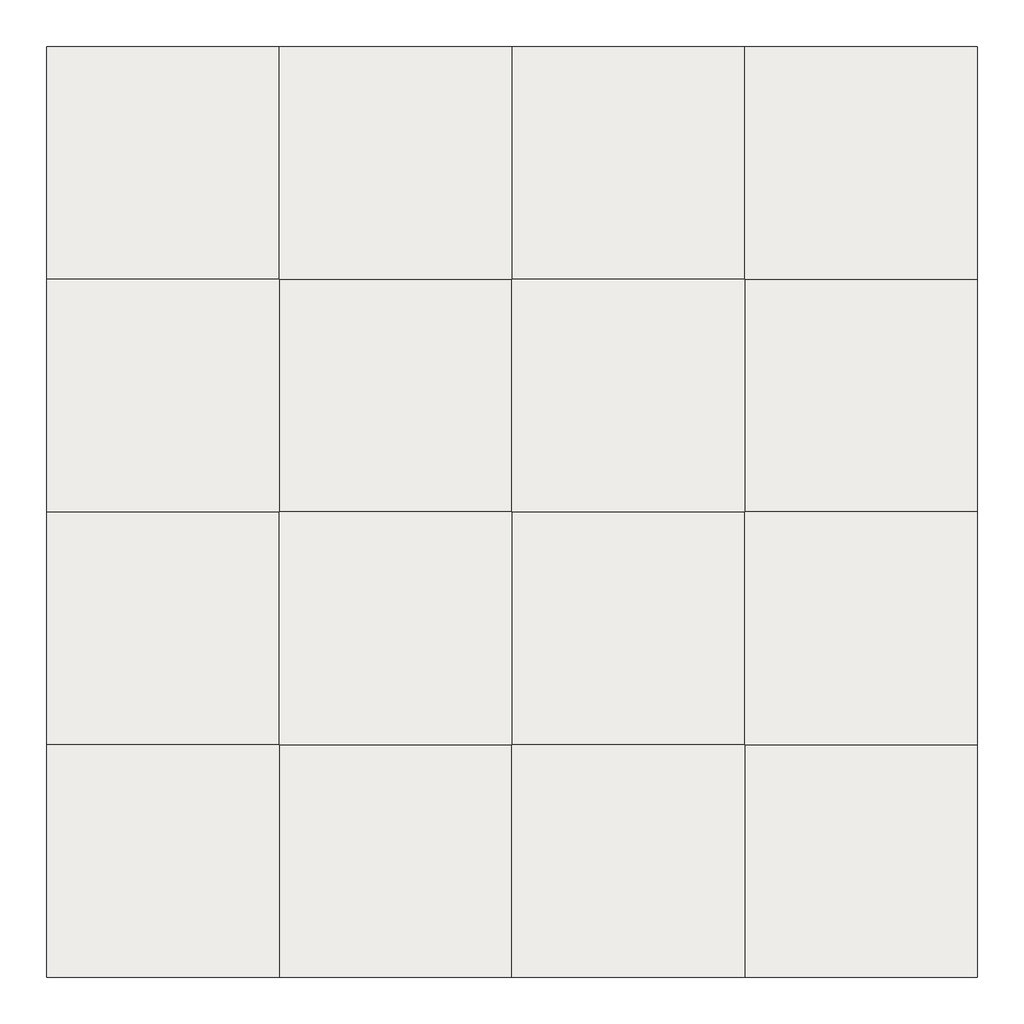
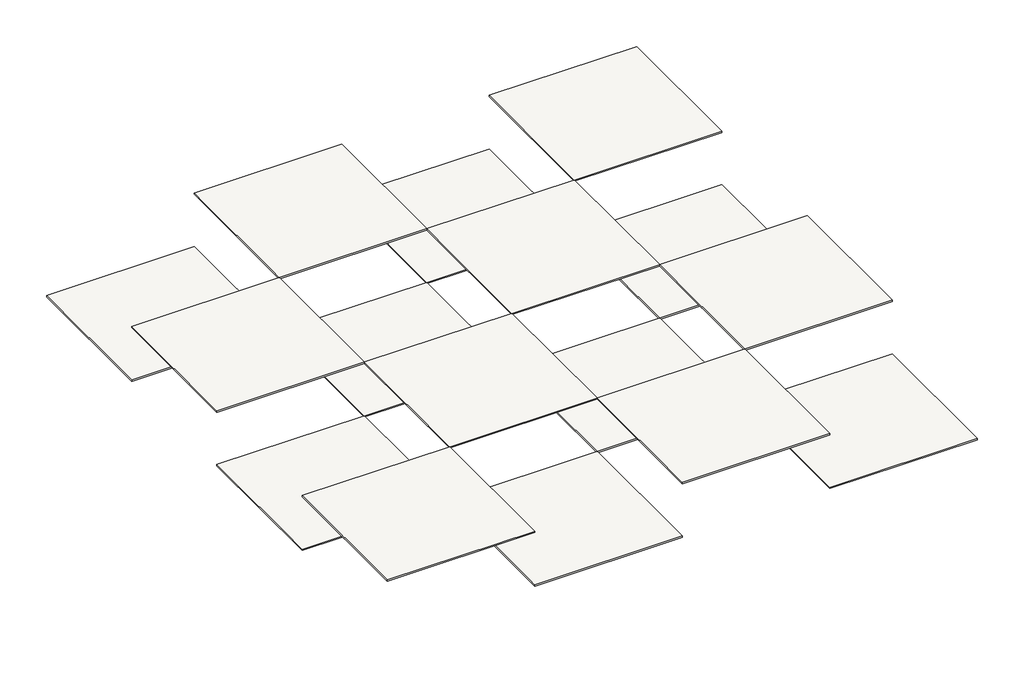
# One storey: 1 roof.
"""IFC4 building model written with IfcOpenShell, lengths in millimetres."""

from ifc_helpers import new_model, si_unit, frame, origin, place, context, project, spatial, polyline, outline, extrude, element, save

model = new_model("IFC4")

# Units and contexts
model_context = context("Model", 3, world=origin())
ifc_project = project(units=[si_unit("LENGTHUNIT", "METRE", prefix="MILLI")], contexts=[model_context])

# Site, building, storey
site = spatial("IfcSite", under=ifc_project)
building = spatial("IfcBuilding", under=site)
storey = spatial("IfcBuildingStorey", under=building, Name="标高 5", Elevation=20000.0)

# Roof
placement = place(None, origin())
element("IfcRoof", 1, ObjectType="常规 - 125mm", at=placement, inside=storey, context=model_context, shape_type="SweptSolid", body=[
    extrude(outline(polyline([(30694.7947586, 24751.3686437), (30694.7947586, 11751.3686437), (17694.7947586, 11751.3686437), (17694.7947586, 24751.3686437), (30694.7947586, 24751.3686437)])), frame((0.0, 0.0, 19875.0), z_axis=(0.0, 0.0, 1.0), x_axis=(1.0, 0.0, 0.0)), (0.0, 0.0, 1.0), 125.0),
    extrude(outline(polyline([(-21305.2052414, -14248.6313563), (-8305.2052414, -14248.6313563), (-8305.2052414, -27248.6313563), (-21305.2052414, -27248.6313563), (-21305.2052414, -14248.6313563)])), frame((0.0, 0.0, 19875.0), z_axis=(0.0, 0.0, 1.0), x_axis=(1.0, 0.0, 0.0)), (0.0, 0.0, 1.0), 125.0),
    extrude(outline(polyline([(-8305.2052414, 11751.3686437), (-8305.2052414, -1248.6313563), (-21305.2052414, -1248.6313563), (-21305.2052414, 11751.3686437), (-8305.2052414, 11751.3686437)])), frame((0.0, 0.0, 19875.0), z_axis=(0.0, 0.0, 1.0), x_axis=(1.0, 0.0, 0.0)), (0.0, 0.0, 1.0), 125.0),
    extrude(outline(polyline([(-8305.2052414, 24751.3686437), (4694.7947586, 24751.3686437), (4694.7947586, 11751.3686437), (-8305.2052414, 11751.3686437), (-8305.2052414, 24751.3686437)])), frame((0.0, 0.0, 19875.0), z_axis=(0.0, 0.0, 1.0), x_axis=(1.0, 0.0, 0.0)), (0.0, 0.0, 1.0), 125.0),
    extrude(outline(polyline([(17694.7947586, 11751.3686437), (17694.7947586, -1248.6313563), (4694.7947586, -1248.6313563), (4694.7947586, 11751.3686437), (17694.7947586, 11751.3686437)])), frame((0.0, 0.0, 19875.0), z_axis=(0.0, 0.0, 1.0), x_axis=(1.0, 0.0, 0.0)), (0.0, 0.0, 1.0), 125.0),
    extrude(outline(polyline([(4694.7947586, -1248.6313563), (4694.7947586, -14248.6313563), (-8305.2052414, -14248.6313563), (-8305.2052414, -1248.6313563), (4694.7947586, -1248.6313563)])), frame((0.0, 0.0, 19875.0), z_axis=(0.0, 0.0, 1.0), x_axis=(1.0, 0.0, 0.0)), (0.0, 0.0, 1.0), 125.0),
    extrude(outline(polyline([(30694.7947586, -1248.6313563), (30694.7947586, -14248.6313563), (17694.7947586, -14248.6313563), (17694.7947586, -1248.6313563), (30694.7947586, -1248.6313563)])), frame((0.0, 0.0, 19875.0), z_axis=(0.0, 0.0, 1.0), x_axis=(1.0, 0.0, 0.0)), (0.0, 0.0, 1.0), 125.0),
    extrude(outline(polyline([(17694.7947586, -14248.6313563), (17694.7947586, -27248.6313563), (4694.7947586, -27248.6313563), (4694.7947586, -14248.6313563), (17694.7947586, -14248.6313563)])), frame((0.0, 0.0, 19875.0), z_axis=(0.0, 0.0, 1.0), x_axis=(1.0, 0.0, 0.0)), (0.0, 0.0, 1.0), 125.0),
    extrude(outline(polyline([(-21305.2052414, 11751.3686437), (-21305.2052414, 24751.3686437), (-8305.2052414, 24751.3686437), (-8305.2052414, 11751.3686437), (-21305.2052414, 11751.3686437)])), frame((0.0, 0.0, 14875.0), z_axis=(0.0, 0.0, 1.0), x_axis=(1.0, 0.0, 0.0)), (0.0, 0.0, 1.0), 125.0),
    extrude(outline(polyline([(4694.7947586, 24751.3686437), (17694.7947586, 24751.3686437), (17694.7947586, 11751.3686437), (4694.7947586, 11751.3686437), (4694.7947586, 24751.3686437)])), frame((0.0, 0.0, 14875.0), z_axis=(0.0, 0.0, 1.0), x_axis=(1.0, 0.0, 0.0)), (0.0, 0.0, 1.0), 125.0),
    extrude(outline(polyline([(4694.7947586, 11751.3686437), (4694.7947586, -1248.6313563), (-8305.2052414, -1248.6313563), (-8305.2052414, 11751.3686437), (4694.7947586, 11751.3686437)])), frame((0.0, 0.0, 14875.0), z_axis=(0.0, 0.0, 1.0), x_axis=(1.0, 0.0, 0.0)), (0.0, 0.0, 1.0), 125.0),
    extrude(outline(polyline([(30694.7947586, 11751.3686437), (30694.7947586, -1248.6313563), (17694.7947586, -1248.6313563), (17694.7947586, 11751.3686437), (30694.7947586, 11751.3686437)])), frame((0.0, 0.0, 14875.0), z_axis=(0.0, 0.0, 1.0), x_axis=(1.0, 0.0, 0.0)), (0.0, 0.0, 1.0), 125.0),
    extrude(outline(polyline([(-8305.2052414, -1248.6313563), (-8305.2052414, -14248.6313563), (-21305.2052414, -14248.6313563), (-21305.2052414, -1248.6313563), (-8305.2052414, -1248.6313563)])), frame((0.0, 0.0, 14875.0), z_axis=(0.0, 0.0, 1.0), x_axis=(1.0, 0.0, 0.0)), (0.0, 0.0, 1.0), 125.0),
    extrude(outline(polyline([(17694.7947586, -1248.6313563), (17694.7947586, -14248.6313563), (4694.7947586, -14248.6313563), (4694.7947586, -1248.6313563), (17694.7947586, -1248.6313563)])), frame((0.0, 0.0, 14875.0), z_axis=(0.0, 0.0, 1.0), x_axis=(1.0, 0.0, 0.0)), (0.0, 0.0, 1.0), 125.0),
    extrude(outline(polyline([(4694.7947586, -14248.6313563), (4694.7947586, -27248.6313563), (-8305.2052414, -27248.6313563), (-8305.2052414, -14248.6313563), (4694.7947586, -14248.6313563)])), frame((0.0, 0.0, 14875.0), z_axis=(0.0, 0.0, 1.0), x_axis=(1.0, 0.0, 0.0)), (0.0, 0.0, 1.0), 125.0),
    extrude(outline(polyline([(30694.7947586, -14248.6313563), (30694.7947586, -27248.6313563), (17694.7947586, -27248.6313563), (17694.7947586, -14248.6313563), (30694.7947586, -14248.6313563)])), frame((0.0, 0.0, 14875.0), z_axis=(0.0, 0.0, 1.0), x_axis=(1.0, 0.0, 0.0)), (0.0, 0.0, 1.0), 125.0),
])

save(model, "model.ifc")
